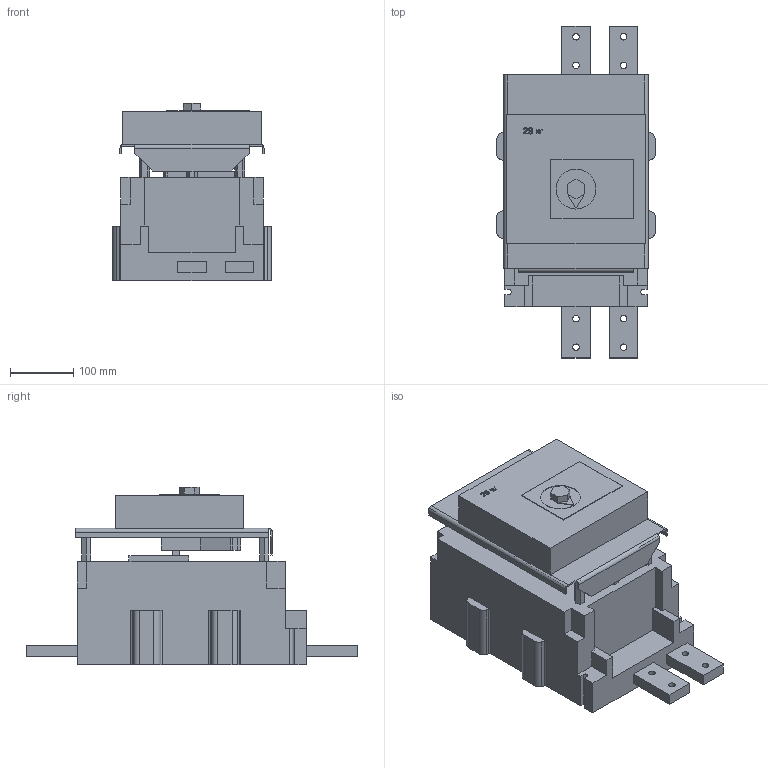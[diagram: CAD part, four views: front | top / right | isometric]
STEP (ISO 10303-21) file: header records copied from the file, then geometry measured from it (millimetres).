
FILE_DESCRIPTION (( 'STEP AP214' ), '1' );
FILE_NAME ('ÂÀ52(56)-41 ñ ÝÌ ïðèâîäîì DC.STEP', '2023-02-13T06:38:18', ( 'user' ), ( '' ), 'SwSTEP 2.0', 'SolidWorks 2018', '' );
FILE_SCHEMA (( 'AUTOMOTIVE_DESIGN' ));
Length unit declared in the file: millimetre
Products named in the file (1): ÂÀ52(56)-41 ñ ÝÌ ïðèâîäîì DC
Bounding box: 250 x 523 x 279.15 mm (x, y, z)
Volume: 15751760.8 mm3; surface area: 694653.9 mm2
Topology: 5 solids, 5 shells, 234 faces, 663 edges, 457 vertices
Faces by surface type: plane 187, cylinder 47
Entity records: 8135 total; most frequent: CARTESIAN_POINT 1801, ORIENTED_EDGE 1326, DIRECTION 1198, EDGE_CURVE 663, LINE 540, VECTOR 540, VERTEX_POINT 457, AXIS2_PLACEMENT_3D 329
